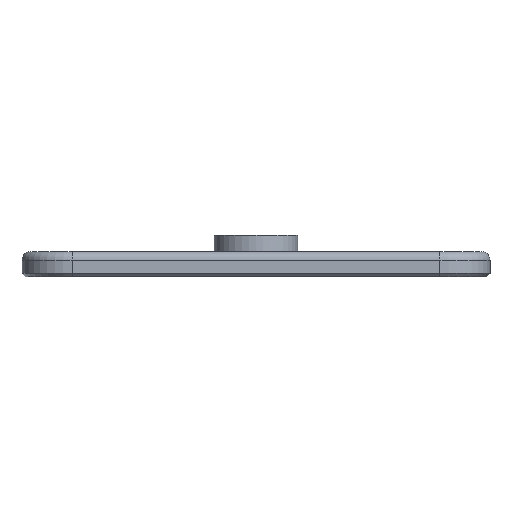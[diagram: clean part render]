
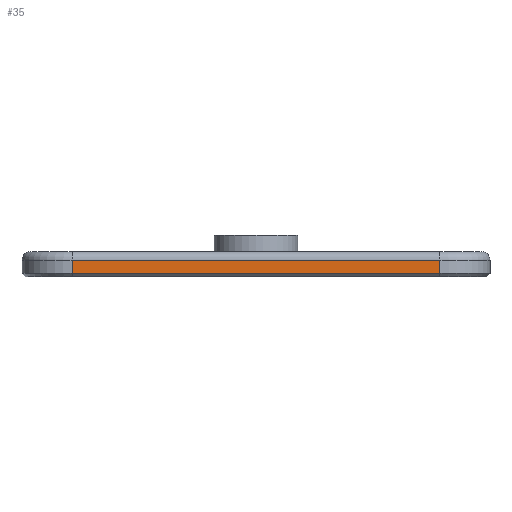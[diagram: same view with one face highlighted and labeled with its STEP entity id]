
A CAD part, left-side view. The second image highlights one B-rep face of the part: STEP entity #35.
In plain terms, the highlighted planar face has unit normal (-1, 0, 0).
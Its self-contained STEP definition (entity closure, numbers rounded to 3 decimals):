
#35 = ADVANCED_FACE('',(#36),#50,.T.);
#36 = FACE_BOUND('',#37,.T.);
#37 = EDGE_LOOP('',(#38,#73,#101,#129));
#38 = ORIENTED_EDGE('',*,*,#39,.T.);
#39 = EDGE_CURVE('',#40,#42,#44,.T.);
#40 = VERTEX_POINT('',#41);
#41 = CARTESIAN_POINT('',(-14.,-11.,0.2));
#42 = VERTEX_POINT('',#43);
#43 = CARTESIAN_POINT('',(-14.,-11.,1.));
#44 = SURFACE_CURVE('',#45,(#49,#61),.PCURVE_S1.);
#45 = LINE('',#46,#47);
#46 = CARTESIAN_POINT('',(-14.,-11.,0.));
#47 = VECTOR('',#48,1.);
#48 = DIRECTION('',(0.,0.,1.));
#49 = PCURVE('',#50,#55);
#50 = PLANE('',#51);
#51 = AXIS2_PLACEMENT_3D('',#52,#53,#54);
#52 = CARTESIAN_POINT('',(-14.,-11.,0.));
#53 = DIRECTION('',(-1.,0.,0.));
#54 = DIRECTION('',(0.,1.,0.));
#55 = DEFINITIONAL_REPRESENTATION('',(#56),#60);
#56 = LINE('',#57,#58);
#57 = CARTESIAN_POINT('',(0.,0.));
#58 = VECTOR('',#59,1.);
#59 = DIRECTION('',(0.,-1.));
#60 = ( GEOMETRIC_REPRESENTATION_CONTEXT(2) 
PARAMETRIC_REPRESENTATION_CONTEXT() REPRESENTATION_CONTEXT('2D SPACE',''
  ) );
#61 = PCURVE('',#62,#67);
#62 = CYLINDRICAL_SURFACE('',#63,3.);
#63 = AXIS2_PLACEMENT_3D('',#64,#65,#66);
#64 = CARTESIAN_POINT('',(-11.,-11.,0.));
#65 = DIRECTION('',(0.,0.,-1.));
#66 = DIRECTION('',(-1.,0.,0.));
#67 = DEFINITIONAL_REPRESENTATION('',(#68),#72);
#68 = LINE('',#69,#70);
#69 = CARTESIAN_POINT('',(6.283,0.));
#70 = VECTOR('',#71,1.);
#71 = DIRECTION('',(0.,-1.));
#72 = ( GEOMETRIC_REPRESENTATION_CONTEXT(2) 
PARAMETRIC_REPRESENTATION_CONTEXT() REPRESENTATION_CONTEXT('2D SPACE',''
  ) );
#73 = ORIENTED_EDGE('',*,*,#74,.T.);
#74 = EDGE_CURVE('',#42,#75,#77,.T.);
#75 = VERTEX_POINT('',#76);
#76 = CARTESIAN_POINT('',(-14.,11.,1.));
#77 = SURFACE_CURVE('',#78,(#82,#89),.PCURVE_S1.);
#78 = LINE('',#79,#80);
#79 = CARTESIAN_POINT('',(-14.,-11.,1.));
#80 = VECTOR('',#81,1.);
#81 = DIRECTION('',(0.,1.,0.));
#82 = PCURVE('',#50,#83);
#83 = DEFINITIONAL_REPRESENTATION('',(#84),#88);
#84 = LINE('',#85,#86);
#85 = CARTESIAN_POINT('',(0.,-1.));
#86 = VECTOR('',#87,1.);
#87 = DIRECTION('',(1.,0.));
#88 = ( GEOMETRIC_REPRESENTATION_CONTEXT(2) 
PARAMETRIC_REPRESENTATION_CONTEXT() REPRESENTATION_CONTEXT('2D SPACE',''
  ) );
#89 = PCURVE('',#90,#95);
#90 = CYLINDRICAL_SURFACE('',#91,0.5);
#91 = AXIS2_PLACEMENT_3D('',#92,#93,#94);
#92 = CARTESIAN_POINT('',(-13.5,-11.,1.));
#93 = DIRECTION('',(0.,1.,0.));
#94 = DIRECTION('',(-1.,0.,0.));
#95 = DEFINITIONAL_REPRESENTATION('',(#96),#100);
#96 = LINE('',#97,#98);
#97 = CARTESIAN_POINT('',(0.,0.));
#98 = VECTOR('',#99,1.);
#99 = DIRECTION('',(0.,1.));
#100 = ( GEOMETRIC_REPRESENTATION_CONTEXT(2) 
PARAMETRIC_REPRESENTATION_CONTEXT() REPRESENTATION_CONTEXT('2D SPACE',''
  ) );
#101 = ORIENTED_EDGE('',*,*,#102,.F.);
#102 = EDGE_CURVE('',#103,#75,#105,.T.);
#103 = VERTEX_POINT('',#104);
#104 = CARTESIAN_POINT('',(-14.,11.,0.2));
#105 = SURFACE_CURVE('',#106,(#110,#117),.PCURVE_S1.);
#106 = LINE('',#107,#108);
#107 = CARTESIAN_POINT('',(-14.,11.,0.));
#108 = VECTOR('',#109,1.);
#109 = DIRECTION('',(0.,0.,1.));
#110 = PCURVE('',#50,#111);
#111 = DEFINITIONAL_REPRESENTATION('',(#112),#116);
#112 = LINE('',#113,#114);
#113 = CARTESIAN_POINT('',(22.,0.));
#114 = VECTOR('',#115,1.);
#115 = DIRECTION('',(0.,-1.));
#116 = ( GEOMETRIC_REPRESENTATION_CONTEXT(2) 
PARAMETRIC_REPRESENTATION_CONTEXT() REPRESENTATION_CONTEXT('2D SPACE',''
  ) );
#117 = PCURVE('',#118,#123);
#118 = CYLINDRICAL_SURFACE('',#119,3.);
#119 = AXIS2_PLACEMENT_3D('',#120,#121,#122);
#120 = CARTESIAN_POINT('',(-11.,11.,0.));
#121 = DIRECTION('',(0.,0.,-1.));
#122 = DIRECTION('',(-1.,0.,0.));
#123 = DEFINITIONAL_REPRESENTATION('',(#124),#128);
#124 = LINE('',#125,#126);
#125 = CARTESIAN_POINT('',(0.,0.));
#126 = VECTOR('',#127,1.);
#127 = DIRECTION('',(0.,-1.));
#128 = ( GEOMETRIC_REPRESENTATION_CONTEXT(2) 
PARAMETRIC_REPRESENTATION_CONTEXT() REPRESENTATION_CONTEXT('2D SPACE',''
  ) );
#129 = ORIENTED_EDGE('',*,*,#130,.F.);
#130 = EDGE_CURVE('',#40,#103,#131,.T.);
#131 = SURFACE_CURVE('',#132,(#136,#143),.PCURVE_S1.);
#132 = LINE('',#133,#134);
#133 = CARTESIAN_POINT('',(-14.,-11.,0.2));
#134 = VECTOR('',#135,1.);
#135 = DIRECTION('',(0.,1.,0.));
#136 = PCURVE('',#50,#137);
#137 = DEFINITIONAL_REPRESENTATION('',(#138),#142);
#138 = LINE('',#139,#140);
#139 = CARTESIAN_POINT('',(0.,-0.2));
#140 = VECTOR('',#141,1.);
#141 = DIRECTION('',(1.,0.));
#142 = ( GEOMETRIC_REPRESENTATION_CONTEXT(2) 
PARAMETRIC_REPRESENTATION_CONTEXT() REPRESENTATION_CONTEXT('2D SPACE',''
  ) );
#143 = PCURVE('',#144,#149);
#144 = PLANE('',#145);
#145 = AXIS2_PLACEMENT_3D('',#146,#147,#148);
#146 = CARTESIAN_POINT('',(-13.9,-11.,0.1));
#147 = DIRECTION('',(0.707,0.,0.707)
  );
#148 = DIRECTION('',(0.,-1.,0.));
#149 = DEFINITIONAL_REPRESENTATION('',(#150),#154);
#150 = LINE('',#151,#152);
#151 = CARTESIAN_POINT('',(-0.,-0.141));
#152 = VECTOR('',#153,1.);
#153 = DIRECTION('',(-1.,0.));
#154 = ( GEOMETRIC_REPRESENTATION_CONTEXT(2) 
PARAMETRIC_REPRESENTATION_CONTEXT() REPRESENTATION_CONTEXT('2D SPACE',''
  ) );
